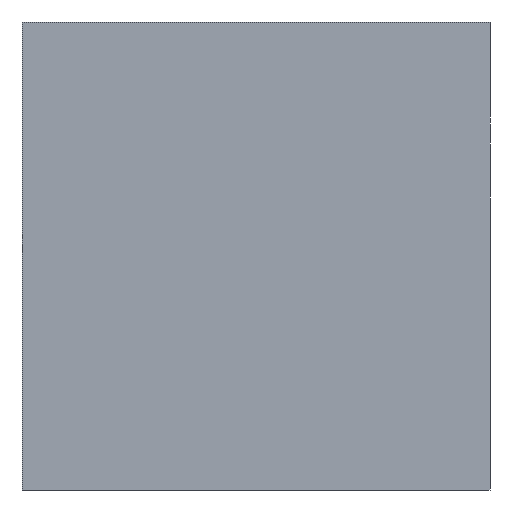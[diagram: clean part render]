
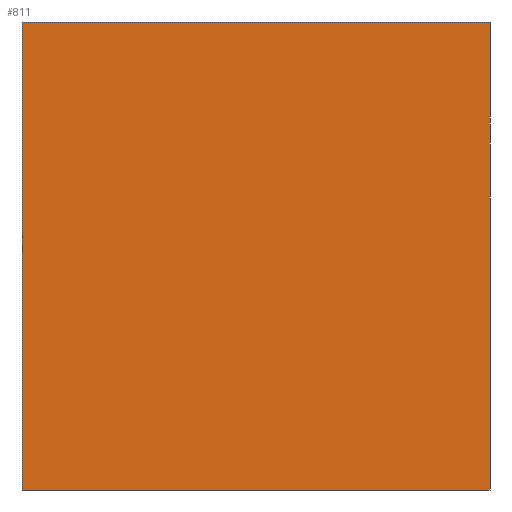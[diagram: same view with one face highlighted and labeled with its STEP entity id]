
A CAD part, front view. The second image highlights one B-rep face of the part: STEP entity #811.
In plain terms, the highlighted planar face has unit normal (0, -1, 0).
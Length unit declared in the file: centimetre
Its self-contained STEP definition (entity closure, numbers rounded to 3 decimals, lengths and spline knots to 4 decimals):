
#24 = LINE ( 'NONE', #410, #59 ) ;
#59 = VECTOR ( 'NONE', #559, 100. ) ;
#141 = ORIENTED_EDGE ( 'NONE', *, *, #504, .T. ) ;
#152 = DIRECTION ( 'NONE',  ( 1., 0., 0. ) ) ;
#159 = LINE ( 'NONE', #617, #787 ) ;
#167 = DIRECTION ( 'NONE',  ( 0., 0., 1. ) ) ;
#195 = EDGE_LOOP ( 'NONE', ( #442, #881, #453, #141 ) ) ;
#236 = DIRECTION ( 'NONE',  ( 0., 0., -1. ) ) ;
#238 = VERTEX_POINT ( 'NONE', #965 ) ;
#242 = VECTOR ( 'NONE', #152, 100. ) ;
#324 = DIRECTION ( 'NONE',  ( 1., 0., 0. ) ) ;
#378 = VERTEX_POINT ( 'NONE', #808 ) ;
#395 = CARTESIAN_POINT ( 'NONE',  ( 0., 0., 1000. ) ) ;
#399 = LINE ( 'NONE', #705, #736 ) ;
#410 = CARTESIAN_POINT ( 'NONE',  ( 1000., 0., 1000. ) ) ;
#440 = VERTEX_POINT ( 'NONE', #580 ) ;
#442 = ORIENTED_EDGE ( 'NONE', *, *, #597, .T. ) ;
#453 = ORIENTED_EDGE ( 'NONE', *, *, #498, .F. ) ;
#478 = DIRECTION ( 'NONE',  ( 0., 1., 0. ) ) ;
#498 = EDGE_CURVE ( 'NONE', #826, #440, #554, .T. ) ;
#504 = EDGE_CURVE ( 'NONE', #826, #378, #159, .T. ) ;
#554 = LINE ( 'NONE', #395, #242 ) ;
#559 = DIRECTION ( 'NONE',  ( 0., 0., -1. ) ) ;
#565 = PLANE ( 'NONE',  #796 ) ;
#580 = CARTESIAN_POINT ( 'NONE',  ( 1000., 0., 1000. ) ) ;
#597 = EDGE_CURVE ( 'NONE', #378, #238, #399, .T. ) ;
#617 = CARTESIAN_POINT ( 'NONE',  ( 0., 0., 1000. ) ) ;
#704 = CARTESIAN_POINT ( 'NONE',  ( 0., 0., 1000. ) ) ;
#705 = CARTESIAN_POINT ( 'NONE',  ( 0., 0., 0. ) ) ;
#736 = VECTOR ( 'NONE', #324, 100. ) ;
#787 = VECTOR ( 'NONE', #236, 100. ) ;
#796 = AXIS2_PLACEMENT_3D ( 'NONE', #941, #478, #167 ) ;
#808 = CARTESIAN_POINT ( 'NONE',  ( 0., 0., 0. ) ) ;
#811 = ADVANCED_FACE ( 'NONE', ( #934 ), #565, .F. ) ;
#826 = VERTEX_POINT ( 'NONE', #704 ) ;
#871 = EDGE_CURVE ( 'NONE', #440, #238, #24, .T. ) ;
#881 = ORIENTED_EDGE ( 'NONE', *, *, #871, .F. ) ;
#934 = FACE_OUTER_BOUND ( 'NONE', #195, .T. ) ;
#941 = CARTESIAN_POINT ( 'NONE',  ( 0., 0., 1000. ) ) ;
#965 = CARTESIAN_POINT ( 'NONE',  ( 1000., 0., 0. ) ) ;
